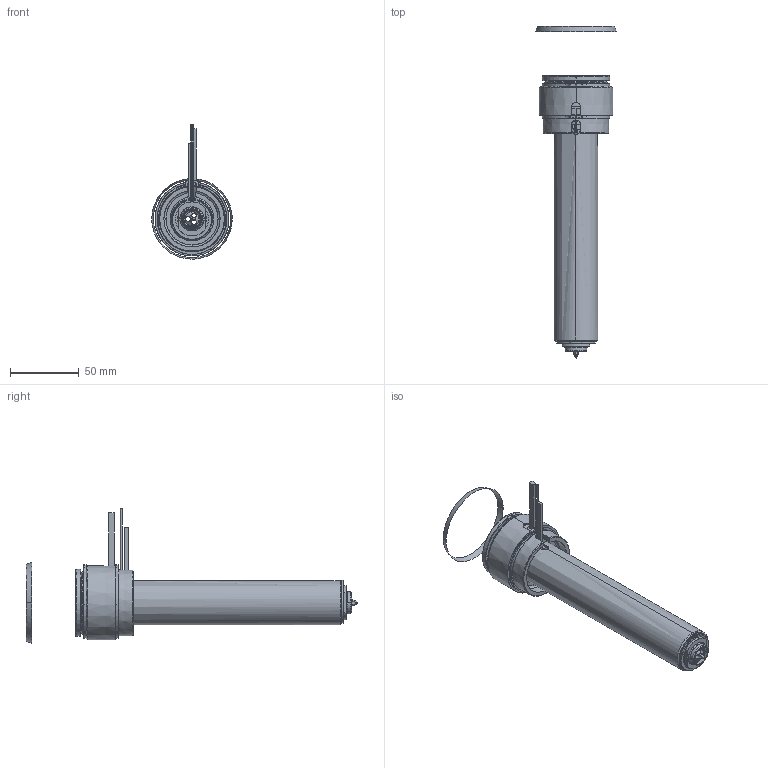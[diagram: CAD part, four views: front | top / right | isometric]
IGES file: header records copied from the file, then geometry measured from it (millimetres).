
Start section: SolidWorks IGES file using analytic representation for surfaces
Global section: file name: C:\Documents and Settings\ws-20\Desktop\TEM\UGEP5504-S-A-0 [Øf-1.18 ØC-12].IGS; native system: SolidWorks 2012; preprocessor: SolidWorks 2012; author: ws-20; date: 120427.080429; units: millimetre
Bounding box: 58.79 x 242.24 x 98.01 mm (x, y, z)
Surface area: 84919.5 mm2 (no closed solid volume)
Topology: 0 solids, 0 shells, 176 faces, 3585 edges, 3585 vertices
Faces by surface type: revolution 115, bspline 61
